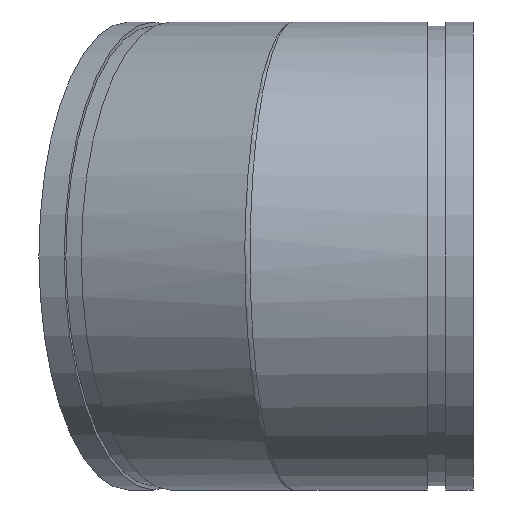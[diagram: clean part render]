
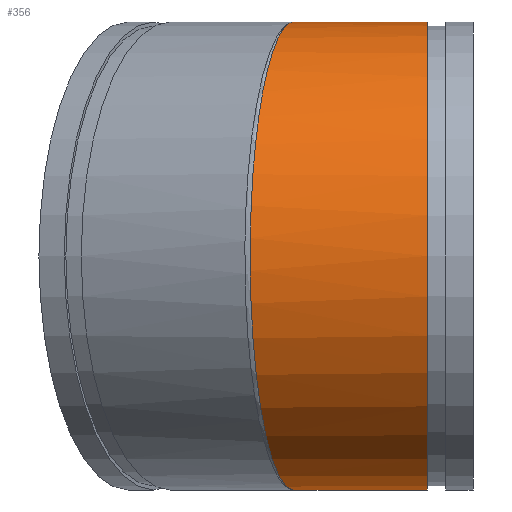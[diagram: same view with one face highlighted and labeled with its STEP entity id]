
A CAD part, left-side view. The second image highlights one B-rep face of the part: STEP entity #356.
In plain terms, the highlighted cylindrical face has radius 161.925 mm (diameter 323.85 mm), a full revolution.
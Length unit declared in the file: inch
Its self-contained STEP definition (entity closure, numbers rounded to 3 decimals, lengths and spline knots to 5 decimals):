
#66=LINE('',#762,#76);
#76=VECTOR('',#497,6.375);
#88=CIRCLE('',#411,6.375);
#108=CYLINDRICAL_SURFACE('',#410,6.375);
#121=FACE_OUTER_BOUND('',#142,.T.);
#142=EDGE_LOOP('',(#271,#272,#273,#274,#275,#276));
#165=ELLIPSE('',#394,6.51486,6.375);
#166=ELLIPSE('',#395,6.51486,6.375);
#168=ELLIPSE('',#399,6.48575,6.375);
#172=VERTEX_POINT('',#659);
#174=VERTEX_POINT('',#662);
#175=VERTEX_POINT('',#664);
#184=VERTEX_POINT('',#761);
#203=EDGE_CURVE('',#174,#175,#165,.T.);
#204=EDGE_CURVE('',#175,#172,#166,.T.);
#208=EDGE_CURVE('',#172,#174,#168,.T.);
#218=EDGE_CURVE('',#175,#184,#66,.T.);
#219=EDGE_CURVE('',#184,#184,#88,.T.);
#271=ORIENTED_EDGE('',*,*,#203,.F.);
#272=ORIENTED_EDGE('',*,*,#208,.F.);
#273=ORIENTED_EDGE('',*,*,#204,.F.);
#274=ORIENTED_EDGE('',*,*,#218,.T.);
#275=ORIENTED_EDGE('',*,*,#219,.F.);
#276=ORIENTED_EDGE('',*,*,#218,.F.);
#356=ADVANCED_FACE('',(#121),#108,.T.);
#394=AXIS2_PLACEMENT_3D('',#665,#460,#461);
#395=AXIS2_PLACEMENT_3D('',#666,#462,#463);
#399=AXIS2_PLACEMENT_3D('',#740,#471,#472);
#410=AXIS2_PLACEMENT_3D('',#760,#495,#496);
#411=AXIS2_PLACEMENT_3D('',#763,#498,#499);
#460=DIRECTION('center_axis',(0.206,0.979,0.));
#461=DIRECTION('ref_axis',(0.979,-0.206,0.));
#462=DIRECTION('center_axis',(0.206,0.979,0.));
#463=DIRECTION('ref_axis',(0.979,-0.206,0.));
#471=DIRECTION('center_axis',(0.184,0.983,0.));
#472=DIRECTION('ref_axis',(-0.983,0.184,0.));
#495=DIRECTION('center_axis',(0.,1.,0.));
#496=DIRECTION('ref_axis',(-1.,0.,0.));
#497=DIRECTION('',(0.,-1.,0.));
#498=DIRECTION('center_axis',(0.,-1.,0.));
#499=DIRECTION('ref_axis',(-1.,0.,0.));
#659=CARTESIAN_POINT('',(0.,4.88,-6.375));
#662=CARTESIAN_POINT('',(0.,4.88,6.375));
#664=CARTESIAN_POINT('',(6.375,3.53734,0.));
#665=CARTESIAN_POINT('Origin',(0.,4.88,0.));
#666=CARTESIAN_POINT('Origin',(0.,4.88,0.));
#740=CARTESIAN_POINT('Origin',(0.,4.88,0.));
#760=CARTESIAN_POINT('Origin',(0.,1.25,0.));
#761=CARTESIAN_POINT('',(6.375,1.25,0.));
#762=CARTESIAN_POINT('',(6.375,1.25,0.));
#763=CARTESIAN_POINT('Origin',(0.,1.25,0.));
